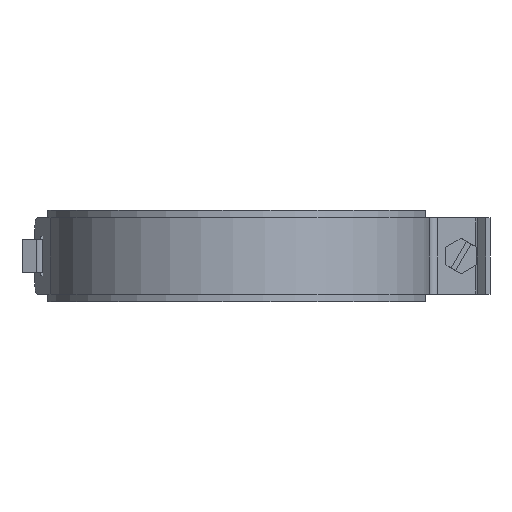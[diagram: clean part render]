
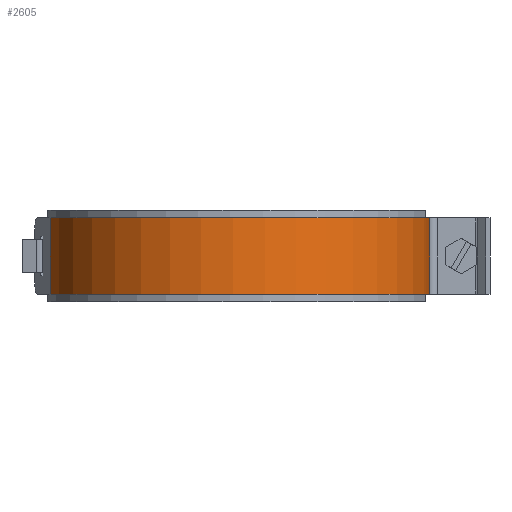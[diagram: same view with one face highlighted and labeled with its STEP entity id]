
A CAD part, front view. The second image highlights one B-rep face of the part: STEP entity #2605.
In plain terms, the highlighted cylindrical face has radius 63 mm (diameter 126 mm), a partial arc.
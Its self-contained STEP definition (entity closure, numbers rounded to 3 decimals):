
#92=CYLINDRICAL_SURFACE($,#2840,63.);
#199=FACE_OUTER_BOUND($,#338,.T.);
#338=EDGE_LOOP($,(#2100,#2101,#2102,#2103,#2104,#2105));
#424=CIRCLE($,#2725,63.);
#426=CIRCLE($,#2728,63.);
#445=CIRCLE($,#2769,63.);
#470=CIRCLE($,#2823,63.);
#657=LINE($,#4199,#904);
#683=LINE($,#4250,#930);
#904=VECTOR($,#3441,25.);
#930=VECTOR($,#3489,25.);
#1059=VERTEX_POINT($,#3870);
#1060=VERTEX_POINT($,#3872);
#1063=VERTEX_POINT($,#3880);
#1064=VERTEX_POINT($,#3881);
#1105=VERTEX_POINT($,#4009);
#1164=VERTEX_POINT($,#4171);
#1330=EDGE_CURVE($,#1059,#1060,#424,.T.);
#1334=EDGE_CURVE($,#1063,#1064,#426,.T.);
#1399=EDGE_CURVE($,#1060,#1105,#445,.T.);
#1476=EDGE_CURVE($,#1164,#1063,#470,.T.);
#1489=EDGE_CURVE($,#1059,#1064,#657,.T.);
#1515=EDGE_CURVE($,#1105,#1164,#683,.T.);
#2100=ORIENTED_EDGE($,*,*,#1515,.F.);
#2101=ORIENTED_EDGE($,*,*,#1399,.F.);
#2102=ORIENTED_EDGE($,*,*,#1330,.F.);
#2103=ORIENTED_EDGE($,*,*,#1489,.T.);
#2104=ORIENTED_EDGE($,*,*,#1334,.F.);
#2105=ORIENTED_EDGE($,*,*,#1476,.F.);
#2605=ADVANCED_FACE($,(#199),#92,.T.);
#2725=AXIS2_PLACEMENT_3D($,#3873,#3125,#3126);
#2728=AXIS2_PLACEMENT_3D($,#3882,#3133,#3134);
#2769=AXIS2_PLACEMENT_3D($,#4010,#3261,#3262);
#2823=AXIS2_PLACEMENT_3D($,#4173,#3419,#3420);
#2840=AXIS2_PLACEMENT_3D($,#4251,#3490,#3491);
#3125=DIRECTION('center_axis',(0.,0.,1.));
#3126=DIRECTION('ref_axis',(0.98,0.199,0.));
#3133=DIRECTION('center_axis',(0.,0.,-1.));
#3134=DIRECTION('ref_axis',(0.98,0.199,0.));
#3261=DIRECTION('center_axis',(0.,0.,1.));
#3262=DIRECTION('ref_axis',(0.98,0.199,0.));
#3419=DIRECTION('center_axis',(0.,0.,-1.));
#3420=DIRECTION('ref_axis',(0.98,0.199,0.));
#3441=DIRECTION($,(0.,0.,-1.));
#3489=DIRECTION($,(0.,0.,-1.));
#3490=DIRECTION('center_axis',(0.,0.,1.));
#3491=DIRECTION('ref_axis',(0.98,0.199,0.));
#3870=CARTESIAN_POINT('',(-61.735,-12.56,12.5));
#3872=CARTESIAN_POINT('',(60.853,-16.306,12.5));
#3873=CARTESIAN_POINT('Origin',(0.,0.,12.5));
#3880=CARTESIAN_POINT('',(60.853,-16.306,-12.5));
#3881=CARTESIAN_POINT('',(-61.735,-12.56,-12.5));
#3882=CARTESIAN_POINT('Origin',(0.,0.,-12.5));
#4009=CARTESIAN_POINT('',(62.689,-6.252,12.5));
#4010=CARTESIAN_POINT('Origin',(0.,0.,12.5));
#4171=CARTESIAN_POINT('',(62.689,-6.252,-12.5));
#4173=CARTESIAN_POINT('Origin',(0.,0.,-12.5));
#4199=CARTESIAN_POINT($,(-61.735,-12.56,0.));
#4250=CARTESIAN_POINT($,(62.689,-6.252,0.));
#4251=CARTESIAN_POINT('Origin',(0.,0.,0.));
